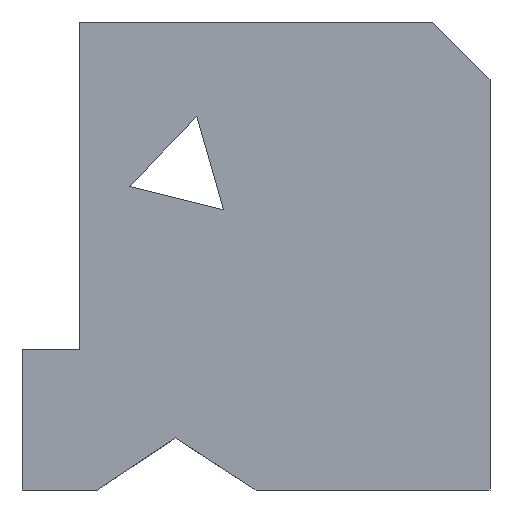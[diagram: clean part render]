
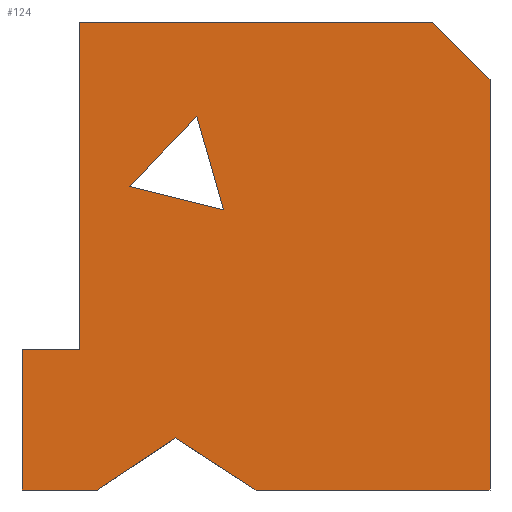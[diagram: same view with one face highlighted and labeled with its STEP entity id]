
A CAD part, front view. The second image highlights one B-rep face of the part: STEP entity #124.
In plain terms, the highlighted planar face has unit normal (0, -1, 0).
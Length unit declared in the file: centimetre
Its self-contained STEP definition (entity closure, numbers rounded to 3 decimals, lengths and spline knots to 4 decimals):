
#7 = ORIENTED_EDGE ( 'NONE', *, *, #698, .F. ) ;
#15 = CARTESIAN_POINT ( 'NONE',  ( 0., 0., 1000. ) ) ;
#23 = DIRECTION ( 'NONE',  ( 1., 0., 0. ) ) ;
#24 = EDGE_CURVE ( 'NONE', #1000, #184, #183, .T. ) ;
#33 = EDGE_CURVE ( 'NONE', #488, #1000, #700, .T. ) ;
#42 = EDGE_LOOP ( 'NONE', ( #298, #393, #443 ) ) ;
#43 = CARTESIAN_POINT ( 'NONE',  ( 877.4935, 0., 1000. ) ) ;
#45 = CARTESIAN_POINT ( 'NONE',  ( 0., 0., 1000. ) ) ;
#51 = CARTESIAN_POINT ( 'NONE',  ( 877.4935, 0., 1000. ) ) ;
#55 = CARTESIAN_POINT ( 'NONE',  ( 122.3147, 0., 301.275 ) ) ;
#67 = EDGE_CURVE ( 'NONE', #603, #364, #865, .T. ) ;
#77 = CARTESIAN_POINT ( 'NONE',  ( 373.5219, 0., 797.8613 ) ) ;
#89 = LINE ( 'NONE', #277, #972 ) ;
#117 = VERTEX_POINT ( 'NONE', #905 ) ;
#120 = DIRECTION ( 'NONE',  ( 0., 1., 0. ) ) ;
#124 = ADVANCED_FACE ( 'NONE', ( #125, #581 ), #977, .F. ) ;
#125 = FACE_BOUND ( 'NONE', #42, .T. ) ;
#128 = CARTESIAN_POINT ( 'NONE',  ( 430.6839, 0., 598.6298 ) ) ;
#133 = EDGE_CURVE ( 'NONE', #448, #859, #830, .T. ) ;
#160 = ORIENTED_EDGE ( 'NONE', *, *, #450, .T. ) ;
#183 = LINE ( 'NONE', #790, #718 ) ;
#184 = VERTEX_POINT ( 'NONE', #197 ) ;
#191 = DIRECTION ( 'NONE',  ( 0., 0., -1. ) ) ;
#196 = CARTESIAN_POINT ( 'NONE',  ( 161.1151, 0., 0. ) ) ;
#197 = CARTESIAN_POINT ( 'NONE',  ( 1000., 0., 0. ) ) ;
#199 = ORIENTED_EDGE ( 'NONE', *, *, #564, .F. ) ;
#204 = ORIENTED_EDGE ( 'NONE', *, *, #793, .T. ) ;
#211 = EDGE_CURVE ( 'NONE', #448, #184, #266, .T. ) ;
#228 = VECTOR ( 'NONE', #351, 100. ) ;
#237 = DIRECTION ( 'NONE',  ( 1., 0., 0. ) ) ;
#241 = VERTEX_POINT ( 'NONE', #611 ) ;
#247 = CARTESIAN_POINT ( 'NONE',  ( 122.3147, 0., 301.275 ) ) ;
#266 = LINE ( 'NONE', #884, #940 ) ;
#277 = CARTESIAN_POINT ( 'NONE',  ( 0., 0., 0. ) ) ;
#283 = CARTESIAN_POINT ( 'NONE',  ( 500., 0., 0. ) ) ;
#284 = VECTOR ( 'NONE', #320, 100. ) ;
#289 = VECTOR ( 'NONE', #327, 100. ) ;
#297 = DIRECTION ( 'NONE',  ( -0.97, 0., 0.242 ) ) ;
#298 = ORIENTED_EDGE ( 'NONE', *, *, #313, .T. ) ;
#307 = CARTESIAN_POINT ( 'NONE',  ( 229.5633, 0., 648.7418 ) ) ;
#311 = ORIENTED_EDGE ( 'NONE', *, *, #33, .T. ) ;
#313 = EDGE_CURVE ( 'NONE', #463, #603, #993, .T. ) ;
#320 = DIRECTION ( 'NONE',  ( 0., 0., -1. ) ) ;
#327 = DIRECTION ( 'NONE',  ( 0.695, 0., 0.719 ) ) ;
#346 = DIRECTION ( 'NONE',  ( 0.832, 0., 0.554 ) ) ;
#351 = DIRECTION ( 'NONE',  ( 0.276, 0., -0.961 ) ) ;
#364 = VERTEX_POINT ( 'NONE', #77 ) ;
#367 = DIRECTION ( 'NONE',  ( 0., 0., 1. ) ) ;
#393 = ORIENTED_EDGE ( 'NONE', *, *, #67, .T. ) ;
#433 = DIRECTION ( 'NONE',  ( -0.707, 0., 0.707 ) ) ;
#443 = ORIENTED_EDGE ( 'NONE', *, *, #595, .T. ) ;
#448 = VERTEX_POINT ( 'NONE', #861 ) ;
#450 = EDGE_CURVE ( 'NONE', #117, #648, #89, .T. ) ;
#452 = EDGE_CURVE ( 'NONE', #648, #488, #706, .T. ) ;
#463 = VERTEX_POINT ( 'NONE', #965 ) ;
#488 = VERTEX_POINT ( 'NONE', #497 ) ;
#497 = CARTESIAN_POINT ( 'NONE',  ( 328.1866, 0., 111.2756 ) ) ;
#509 = VECTOR ( 'NONE', #600, 100. ) ;
#519 = ORIENTED_EDGE ( 'NONE', *, *, #24, .T. ) ;
#527 = VECTOR ( 'NONE', #346, 100. ) ;
#564 = EDGE_CURVE ( 'NONE', #241, #788, #814, .T. ) ;
#569 = DIRECTION ( 'NONE',  ( 1., 0., 0. ) ) ;
#578 = ORIENTED_EDGE ( 'NONE', *, *, #133, .T. ) ;
#581 = FACE_OUTER_BOUND ( 'NONE', #831, .T. ) ;
#589 = LINE ( 'NONE', #55, #610 ) ;
#595 = EDGE_CURVE ( 'NONE', #364, #463, #897, .T. ) ;
#600 = DIRECTION ( 'NONE',  ( 1., 0., 0. ) ) ;
#603 = VERTEX_POINT ( 'NONE', #902 ) ;
#608 = VECTOR ( 'NONE', #297, 100. ) ;
#610 = VECTOR ( 'NONE', #367, 100. ) ;
#611 = CARTESIAN_POINT ( 'NONE',  ( 0., 0., 301.275 ) ) ;
#618 = CARTESIAN_POINT ( 'NONE',  ( 0., 0., 1000. ) ) ;
#648 = VERTEX_POINT ( 'NONE', #996 ) ;
#651 = VECTOR ( 'NONE', #433, 100. ) ;
#662 = EDGE_CURVE ( 'NONE', #788, #852, #589, .T. ) ;
#680 = LINE ( 'NONE', #618, #739 ) ;
#698 = EDGE_CURVE ( 'NONE', #852, #859, #680, .T. ) ;
#700 = LINE ( 'NONE', #869, #920 ) ;
#706 = LINE ( 'NONE', #196, #527 ) ;
#718 = VECTOR ( 'NONE', #569, 100. ) ;
#733 = DIRECTION ( 'NONE',  ( 0., 0., 1. ) ) ;
#739 = VECTOR ( 'NONE', #237, 100. ) ;
#788 = VERTEX_POINT ( 'NONE', #247 ) ;
#790 = CARTESIAN_POINT ( 'NONE',  ( 0., 0., 0. ) ) ;
#793 = EDGE_CURVE ( 'NONE', #241, #117, #1001, .T. ) ;
#794 = DIRECTION ( 'NONE',  ( 0.839, 0., -0.544 ) ) ;
#799 = CARTESIAN_POINT ( 'NONE',  ( 373.5219, 0., 797.8613 ) ) ;
#803 = AXIS2_PLACEMENT_3D ( 'NONE', #45, #120, #733 ) ;
#814 = LINE ( 'NONE', #976, #509 ) ;
#830 = LINE ( 'NONE', #51, #651 ) ;
#831 = EDGE_LOOP ( 'NONE', ( #7, #931, #199, #204, #160, #963, #311, #519, #847, #578 ) ) ;
#847 = ORIENTED_EDGE ( 'NONE', *, *, #211, .F. ) ;
#852 = VERTEX_POINT ( 'NONE', #879 ) ;
#859 = VERTEX_POINT ( 'NONE', #43 ) ;
#861 = CARTESIAN_POINT ( 'NONE',  ( 1000., 0., 877.4935 ) ) ;
#865 = LINE ( 'NONE', #799, #289 ) ;
#869 = CARTESIAN_POINT ( 'NONE',  ( 328.1866, 0., 111.2756 ) ) ;
#879 = CARTESIAN_POINT ( 'NONE',  ( 122.3147, 0., 1000. ) ) ;
#884 = CARTESIAN_POINT ( 'NONE',  ( 1000., 0., 1000. ) ) ;
#897 = LINE ( 'NONE', #128, #228 ) ;
#902 = CARTESIAN_POINT ( 'NONE',  ( 229.5633, 0., 648.7418 ) ) ;
#905 = CARTESIAN_POINT ( 'NONE',  ( 0., 0., 0. ) ) ;
#920 = VECTOR ( 'NONE', #794, 100. ) ;
#931 = ORIENTED_EDGE ( 'NONE', *, *, #662, .F. ) ;
#940 = VECTOR ( 'NONE', #191, 100. ) ;
#963 = ORIENTED_EDGE ( 'NONE', *, *, #452, .T. ) ;
#965 = CARTESIAN_POINT ( 'NONE',  ( 430.6839, 0., 598.6298 ) ) ;
#972 = VECTOR ( 'NONE', #23, 100. ) ;
#976 = CARTESIAN_POINT ( 'NONE',  ( 122.3147, 0., 301.275 ) ) ;
#977 = PLANE ( 'NONE',  #803 ) ;
#993 = LINE ( 'NONE', #307, #608 ) ;
#996 = CARTESIAN_POINT ( 'NONE',  ( 161.1151, 0., 0. ) ) ;
#1000 = VERTEX_POINT ( 'NONE', #283 ) ;
#1001 = LINE ( 'NONE', #15, #284 ) ;
